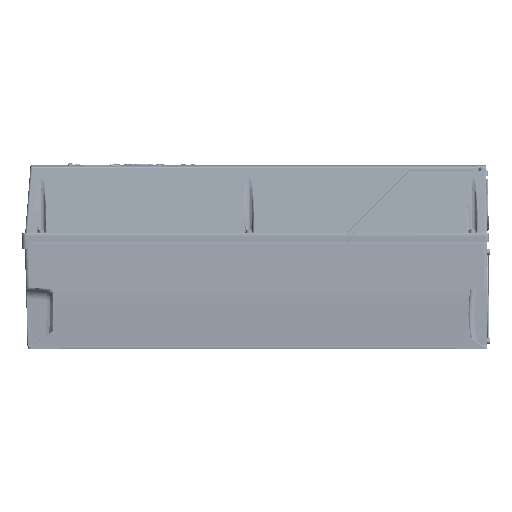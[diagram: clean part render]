
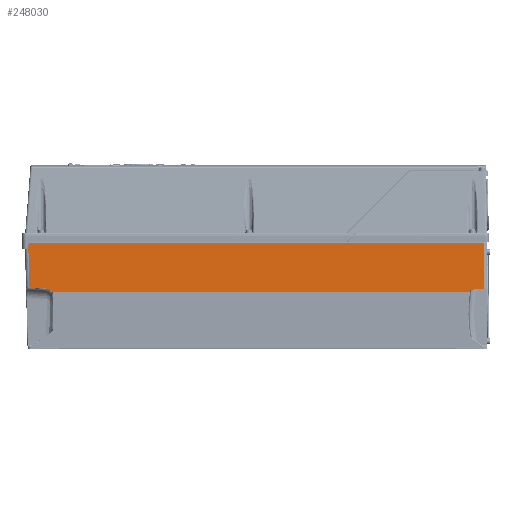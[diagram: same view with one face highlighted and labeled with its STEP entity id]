
A CAD part, left-side view. The second image highlights one B-rep face of the part: STEP entity #248030.
In plain terms, the highlighted planar face has unit normal (-1, 0, 0.024).
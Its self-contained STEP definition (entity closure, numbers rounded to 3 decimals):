
#20505=CARTESIAN_POINT('',(-119.098,318.091,
-2.488));
#62539=CARTESIAN_POINT('',(-120.686,-298.655,
-67.489));
#62546=CARTESIAN_POINT('',(-120.75,-297.88,
-70.105));
#62853=DIRECTION('',(0.001,0.998,0.061));
#62854=VECTOR('',#62853,25.514);
#62855=CARTESIAN_POINT('',(-120.645,291.007,
-65.824));
#62856=LINE('',#62855,#62854);
#62857=DIRECTION('',(0.024,0.026,0.999));
#62858=VECTOR('',#62857,61.818);
#62859=CARTESIAN_POINT('',(-120.607,316.473,
-64.266));
#62860=LINE('',#62859,#62858);
#62861=DIRECTION('',(0.,1.,0.));
#62862=VECTOR('',#62861,636.291);
#62863=CARTESIAN_POINT('',(-119.098,-318.2,
-2.488));
#62864=LINE('',#62863,#62862);
#62865=DIRECTION('',(-0.024,0.,-1.));
#62866=VECTOR('',#62865,63.825);
#62867=CARTESIAN_POINT('',(-119.098,-318.2,
-2.488));
#62868=LINE('',#62867,#62866);
#62869=CARTESIAN_POINT('',(-120.75,-297.88,
-70.105));
#62870=CARTESIAN_POINT('',(-120.75,-297.9,
-70.096));
#62871=CARTESIAN_POINT('',(-120.749,-297.936,
-70.069));
#62872=CARTESIAN_POINT('',(-120.747,-297.977,
-69.985));
#62873=CARTESIAN_POINT('',(-120.745,-298.011,
-69.906));
#62874=CARTESIAN_POINT('',(-120.743,-298.044,
-69.818));
#62875=CARTESIAN_POINT('',(-120.741,-298.077,
-69.725));
#62876=CARTESIAN_POINT('',(-120.738,-298.11,
-69.622));
#62877=CARTESIAN_POINT('',(-120.735,-298.145,
-69.508));
#62878=CARTESIAN_POINT('',(-120.732,-298.182,
-69.381));
#62879=CARTESIAN_POINT('',(-120.729,-298.221,
-69.242));
#62880=CARTESIAN_POINT('',(-120.725,-298.262,
-69.091));
#62881=CARTESIAN_POINT('',(-120.721,-298.304,
-68.931));
#62882=CARTESIAN_POINT('',(-120.717,-298.348,
-68.762));
#62883=CARTESIAN_POINT('',(-120.713,-298.392,
-68.587));
#62884=CARTESIAN_POINT('',(-120.708,-298.436,
-68.407));
#62885=CARTESIAN_POINT('',(-120.704,-298.481,
-68.223));
#62886=CARTESIAN_POINT('',(-120.699,-298.526,
-68.038));
#62887=CARTESIAN_POINT('',(-120.695,-298.57,
-67.853));
#62888=CARTESIAN_POINT('',(-120.69,-298.613,
-67.669));
#62889=CARTESIAN_POINT('',(-120.688,-298.641,
-67.549));
#62890=CARTESIAN_POINT('',(-120.686,-298.655,
-67.489));
#62892=DIRECTION('',(0.,1.,0.));
#62893=VECTOR('',#62892,582.019);
#62894=CARTESIAN_POINT('',(-120.75,-297.88,
-70.105));
#62895=LINE('',#62894,#62893);
#62896=CARTESIAN_POINT('',(-120.75,284.139,
-70.107));
#62897=CARTESIAN_POINT('',(-120.735,284.492,
-69.488));
#62898=CARTESIAN_POINT('',(-120.708,285.316,
-68.372));
#62899=CARTESIAN_POINT('',(-120.675,286.976,
-67.022));
#62900=CARTESIAN_POINT('',(-120.653,288.916,
-66.128));
#62901=CARTESIAN_POINT('',(-120.646,290.29,
-65.868));
#62902=CARTESIAN_POINT('',(-120.645,291.007,
-65.824));
#62918=DIRECTION('',(0.001,-0.998,0.061));
#62919=VECTOR('',#62918,19.582);
#62920=CARTESIAN_POINT('',(-120.686,-298.655,
-67.489));
#62921=LINE('',#62920,#62919);
#62926=CARTESIAN_POINT('',(-120.657,-318.2,-66.294));
#91430=VERTEX_POINT('',#20505);
#91432=CARTESIAN_POINT('',(-119.098,-318.2,
-2.488));
#91433=VERTEX_POINT('',#91432);
#91946=VERTEX_POINT('',#62546);
#92046=CARTESIAN_POINT('',(-120.645,291.007,
-65.824));
#92047=CARTESIAN_POINT('',(-120.607,316.473,
-64.266));
#92048=VERTEX_POINT('',#92046);
#92049=VERTEX_POINT('',#92047);
#92101=VERTEX_POINT('',#62539);
#97140=VERTEX_POINT('',#62926);
#97148=VERTEX_POINT('',#62896);
#248013=CARTESIAN_POINT('',(-120.75,-323.,-70.105));
#248014=DIRECTION('',(-1.,0.,0.024));
#248015=DIRECTION('',(0.024,0.,1.));
#248016=AXIS2_PLACEMENT_3D('',#248013,#248014,#248015);
#248017=PLANE('',#248016);
#248018=ORIENTED_EDGE('',*,*,#133618,.T.);
#248019=ORIENTED_EDGE('',*,*,#133706,.T.);
#248020=ORIENTED_EDGE('',*,*,#133768,.F.);
#248022=ORIENTED_EDGE('',*,*,#248021,.T.);
#248024=ORIENTED_EDGE('',*,*,#248023,.F.);
#248025=ORIENTED_EDGE('',*,*,#247083,.F.);
#248026=ORIENTED_EDGE('',*,*,#247101,.T.);
#248027=ORIENTED_EDGE('',*,*,#248005,.T.);
#248028=EDGE_LOOP('',(#248018,#248019,#248020,#248022,#248024,#248025,#248026,
#248027));
#248029=FACE_OUTER_BOUND('',#248028,.F.);
#62891=B_SPLINE_CURVE_WITH_KNOTS('',3,(#62869,#62870,#62871,#62872,#62873,
#62874,#62875,#62876,#62877,#62878,#62879,#62880,#62881,#62882,#62883,#62884,
#62885,#62886,#62887,#62888,#62889,#62890),.UNSPECIFIED.,.F.,.F.,(4,1,1,1,1,1,1,
1,1,1,1,1,1,1,1,1,1,1,1,4),(0.,0.053,0.105,
0.158,0.211,0.263,0.316,
0.368,0.421,0.474,0.526,
0.579,0.632,0.684,0.737,
0.789,0.842,0.895,0.947,1.),
.UNSPECIFIED.);
#62903=B_SPLINE_CURVE_WITH_KNOTS('',3,(#62896,#62897,#62898,#62899,#62900,
#62901,#62902),.UNSPECIFIED.,.F.,.F.,(4,1,1,1,4),(0.,0.25,0.5,0.75,
1.),.UNSPECIFIED.);
#133618=EDGE_CURVE('',#92048,#92049,#62856,.T.);
#133706=EDGE_CURVE('',#92049,#91430,#62860,.T.);
#133768=EDGE_CURVE('',#91433,#91430,#62864,.T.);
#247083=EDGE_CURVE('',#91946,#92101,#62891,.T.);
#247101=EDGE_CURVE('',#91946,#97148,#62895,.T.);
#248005=EDGE_CURVE('',#97148,#92048,#62903,.T.);
#248021=EDGE_CURVE('',#91433,#97140,#62868,.T.);
#248023=EDGE_CURVE('',#92101,#97140,#62921,.T.);
#248030=ADVANCED_FACE('',(#248029),#248017,.T.);
